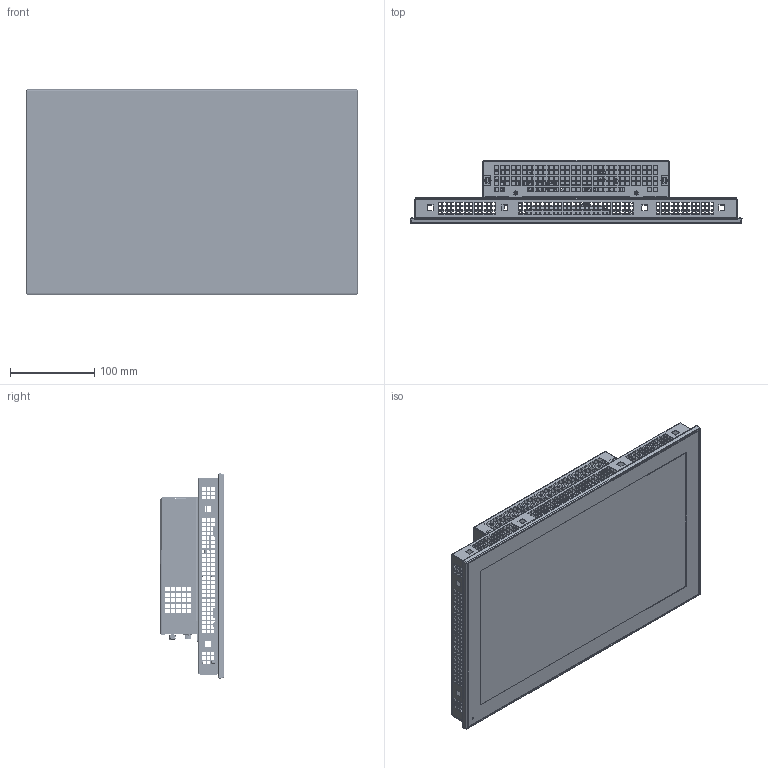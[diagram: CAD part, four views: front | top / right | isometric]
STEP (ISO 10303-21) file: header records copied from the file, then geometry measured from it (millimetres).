
FILE_DESCRIPTION (( 'STEP AP214' ), '1' );
FILE_NAME ('D09201956.STEP', '2022-02-25T14:05:55', ( '' ), ( '' ), 'SwSTEP 2.0', 'SolidWorks 2021', '' );
FILE_SCHEMA (( 'AUTOMOTIVE_DESIGN' ));
Length unit declared in the file: millimetre
Products named in the file (38): 65720062; 56636900_Default<A macchina>; 62920011; 56572011; 59303026; 56506010_2^D09201902; 55688013; foot4049_1270000; 21410039; 56600563; 50342001; 20900019; GRUPPO VITE TERRA M4; 50342008-1^GRUPPO FRONTALE 156W PCAP QT VHB; 55600017; GRUPPO FRONTALE 156W PCAP QT VHB_21900124; 7397_369_DEPOPOLATA; 51703013_Default<A macchina>; 23330027; 69111020; 40141495; 21900124; 69111025; 59703008; 48000075; 65720029; D09201956; 7397_213_DEPOPOLATA; D09201902_12-24; 14300032; 62920005; 69111028; 21409042; 21405042; 50342008-2^GRUPPO FRONTALE 156W PCAP QT VHB; 56600564; 21402041; 62920001
Assembly tree (73 placements, depth 5):
  D09201956
    GRUPPO FRONTALE 156W PCAP QT VHB_21900124
      21900124
      56600563
        56600564
          56636900_Default<A macchina>
        55600017
          55688013
          48000075
      69111028  x9
      40141495
      50342001
      65720029  x4
      50342008-1^GRUPPO FRONTALE 156W PCAP QT VHB  x2
      50342008-2^GRUPPO FRONTALE 156W PCAP QT VHB  x2
    59303026
    D09201902_12-24
      7397_369_DEPOPOLATA
        23330027  x4
        21405042
        21409042
        foot4049_1270000
        21410039  x3
      7397_213_DEPOPOLATA
        21402041
      14300032
      59703008
      69111020  x8
      GRUPPO VITE TERRA M4
        65720062
        62920011
        62920001
        62920005
        20900019
      69111025
      56572011
      51703013_Default<A macchina>
      56506010_2^D09201902  x2
    69111028  x10
Bounding box: 395.2 x 75.4 x 244.7 mm (x, y, z)
Topology: 206 solids, 236 shells, 15387 faces, 42970 edges, 28225 vertices
Faces by surface type: plane 11413, cylinder 3174, cone 479, bspline 241, torus 68, sphere 12
Entity records: 375950 total; most frequent: CARTESIAN_POINT 72481, ORIENTED_EDGE 62091, DIRECTION 55767, EDGE_CURVE 31265, LINE 26525, VECTOR 26525, VERTEX_POINT 20527, AXIS2_PLACEMENT_3D 14621
